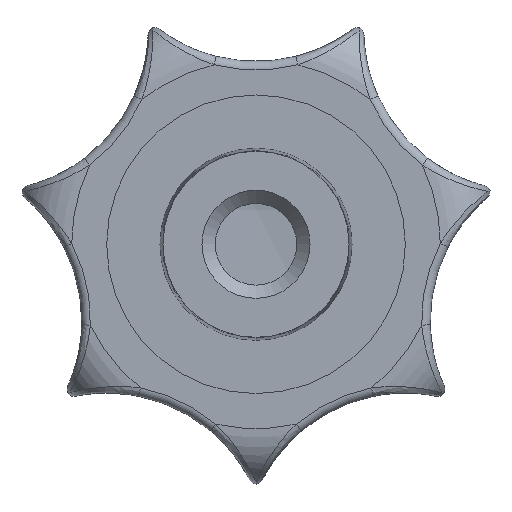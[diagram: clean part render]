
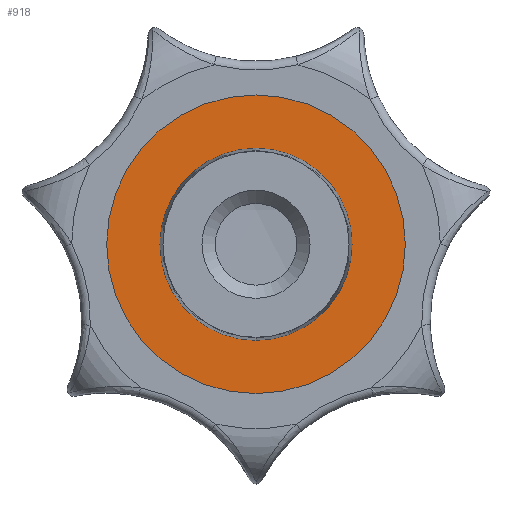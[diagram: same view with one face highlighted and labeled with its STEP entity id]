
A CAD part, front view. The second image highlights one B-rep face of the part: STEP entity #918.
In plain terms, the highlighted planar face has unit normal (0, -1, 0).
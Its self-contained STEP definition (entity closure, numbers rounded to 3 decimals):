
#58=FACE_BOUND('',#258,.T.);
#61=PLANE('',#1044);
#198=FACE_OUTER_BOUND('',#257,.T.);
#257=EDGE_LOOP('',(#851,#852));
#258=EDGE_LOOP('',(#853,#854));
#266=CIRCLE('',#949,8.);
#267=CIRCLE('',#950,8.);
#272=CIRCLE('',#956,12.436);
#273=CIRCLE('',#957,12.436);
#346=VERTEX_POINT('',#1284);
#347=VERTEX_POINT('',#1285);
#352=VERTEX_POINT('',#1298);
#353=VERTEX_POINT('',#1300);
#438=EDGE_CURVE('',#346,#347,#266,.T.);
#439=EDGE_CURVE('',#347,#346,#267,.T.);
#446=EDGE_CURVE('',#352,#353,#272,.T.);
#447=EDGE_CURVE('',#353,#352,#273,.T.);
#851=ORIENTED_EDGE('',*,*,#447,.F.);
#852=ORIENTED_EDGE('',*,*,#446,.F.);
#853=ORIENTED_EDGE('',*,*,#438,.T.);
#854=ORIENTED_EDGE('',*,*,#439,.T.);
#918=ADVANCED_FACE('',(#198,#58),#61,.T.);
#949=AXIS2_PLACEMENT_3D('',#1286,#1069,#1070);
#950=AXIS2_PLACEMENT_3D('',#1287,#1071,#1072);
#956=AXIS2_PLACEMENT_3D('',#1301,#1085,#1086);
#957=AXIS2_PLACEMENT_3D('',#1302,#1087,#1088);
#1044=AXIS2_PLACEMENT_3D('',#7645,#1261,#1262);
#1069=DIRECTION('center_axis',(0.,1.,0.));
#1070=DIRECTION('ref_axis',(0.,0.,1.));
#1071=DIRECTION('center_axis',(0.,1.,0.));
#1072=DIRECTION('ref_axis',(0.,0.,1.));
#1085=DIRECTION('center_axis',(0.,1.,0.));
#1086=DIRECTION('ref_axis',(0.,0.,1.));
#1087=DIRECTION('center_axis',(0.,1.,0.));
#1088=DIRECTION('ref_axis',(0.,0.,1.));
#1261=DIRECTION('center_axis',(0.,-1.,0.));
#1262=DIRECTION('ref_axis',(0.,0.,-1.));
#1284=CARTESIAN_POINT('',(0.,-6.713,8.));
#1285=CARTESIAN_POINT('',(0.,-6.713,-8.));
#1286=CARTESIAN_POINT('Origin',(0.,-6.713,0.));
#1287=CARTESIAN_POINT('Origin',(0.,-6.713,0.));
#1298=CARTESIAN_POINT('',(0.,-6.713,-12.436));
#1300=CARTESIAN_POINT('',(0.,-6.713,12.436));
#1301=CARTESIAN_POINT('Origin',(0.,-6.713,0.));
#1302=CARTESIAN_POINT('Origin',(0.,-6.713,0.));
#7645=CARTESIAN_POINT('Origin',(12.436,-6.713,0.));
